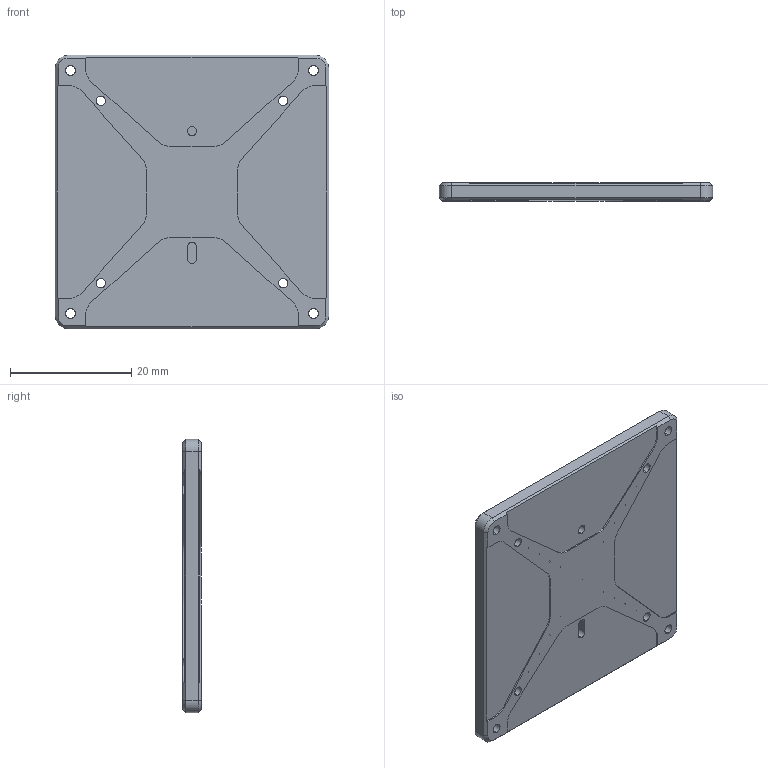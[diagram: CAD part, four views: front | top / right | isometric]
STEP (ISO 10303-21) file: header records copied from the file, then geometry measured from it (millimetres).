
FILE_DESCRIPTION (( 'STEP AP214' ), '1' );
FILE_NAME ('100322_Ver 0_Adapter_Plate_RS454523.STEP', '2025-03-14T08:56:38', ( '' ), ( '' ), 'SwSTEP 2.0', 'SolidWorks 2021', '' );
FILE_SCHEMA (( 'AUTOMOTIVE_DESIGN' ));
Length unit declared in the file: millimetre
Products named in the file (1): 100322_Ver 0_Adapter_Plate_RS454523
Bounding box: 45 x 3 x 45 mm (x, y, z)
Volume: 5259.1 mm3; surface area: 4895 mm2
Topology: 1 solids, 1 shells, 229 faces, 619 edges, 379 vertices
Faces by surface type: cylinder 103, plane 84, cone 42
Entity records: 7493 total; most frequent: DIRECTION 1275, CARTESIAN_POINT 1194, ORIENTED_EDGE 1170, EDGE_CURVE 585, AXIS2_PLACEMENT_3D 460, VERTEX_POINT 379, VECTOR 355, LINE 355
